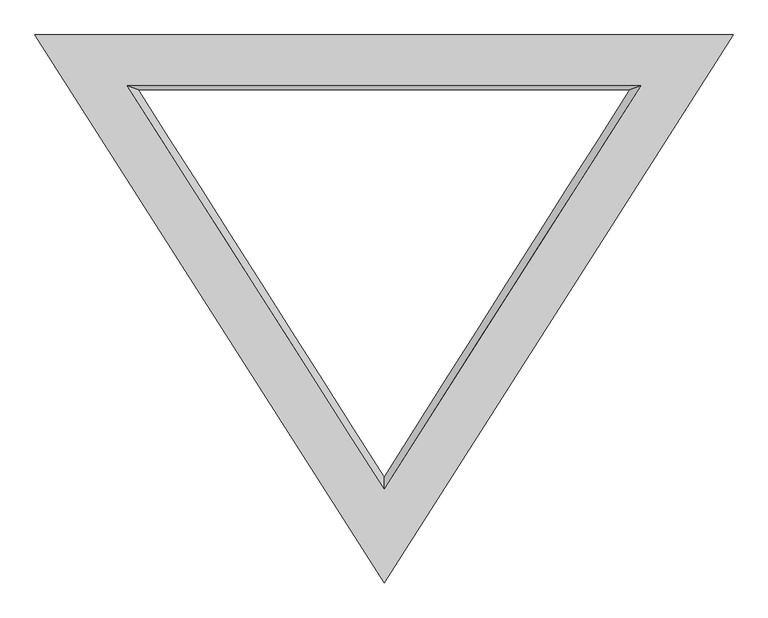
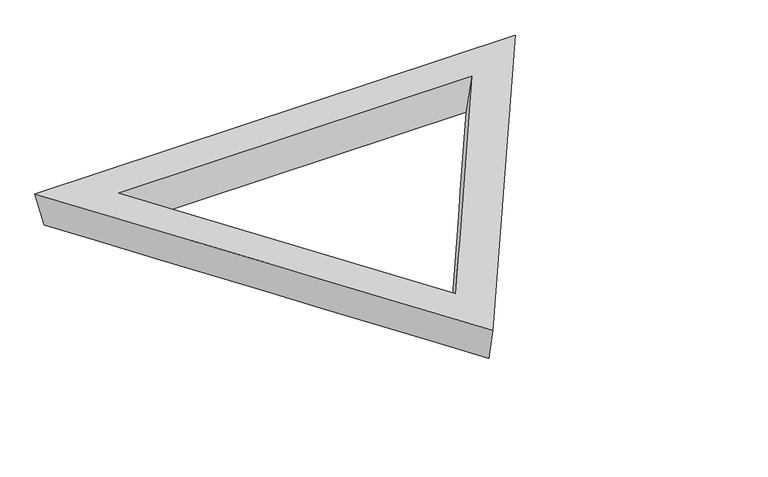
"""IFC4 building model written with IfcOpenShell, lengths in millimetres: plate geometry."""

from ifc_helpers import new_model, si_unit, frame, origin, place, context, project, spatial, source, transform, mapped, element, save
from ifc_brep_helpers import plane_surface, spline_surface, advanced_brep


def plate_71783cb5(model_context):
    return source(origin(), model_context, "Body", "AdvancedBrep", [
        advanced_brep(
        [(5109.0489049, 5589.8351689, 0.0), (5065.5304348, 5605.7829628, 197.7089017), (6096.0, 3988.3285992, 198.2917035), (6096.0, 4033.3777205, 0.0), (7126.4695652, 5605.7829628, 197.7089017), (7082.9510951, 5589.8351689, 0.0), (6096.0, 3653.9296621, 0.0), (7452.4087631, 5793.0351689, 0.0), (7496.8614846, 5808.9829496, 197.6356846), (6096.0, 3610.1508856, 198.4279686), (4739.5912369, 5793.0351689, 0.0), (4695.1385154, 5808.9829496, 197.6356846)],
        [
            (0, 1),
            (1, 2),
            (2, 3),
            (3, 0),
            (2, 4),
            (4, 5),
            (5, 3),
            (0, 5),
            (4, 1),
            (6, 7),
            (7, 8),
            (8, 9),
            (9, 6),
            (7, 10),
            (10, 11),
            (11, 8),
            (9, 11),
            (10, 6),
        ],
        [
            spline_surface(1, 1, [[(5109.0489049, 5589.8351689, 0.0), (6096.0, 4033.3777205, 0.0)], [(5065.5304348, 5605.7829628, 197.7089017), (6096.0, 3988.3285992, 198.2917035)]], [2, 2], [2, 2], [0.0, 1.0], [0.0, 1.0]),
            spline_surface(1, 1, [[(6096.0, 4033.3777205, 0.0), (7082.9510951, 5589.8351689, 0.0)], [(6096.0, 3988.3285992, 198.2917035), (7126.4695652, 5605.7829628, 197.7089017)]], [2, 2], [2, 2], [0.0, 1.0], [0.0, 1.0]),
            plane_surface(frame((6096.0, 5589.8351689, 0.0), z_axis=(0.0, -0.9967625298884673, 0.08040185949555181), x_axis=(-1.0, 0.0, 0.0))),
            spline_surface(1, 1, [[(6096.0, 3653.9296621, 0.0), (6096.0, 3610.1508856, 198.4279686)], [(7452.4087631, 5793.0351689, 0.0), (7496.8614846, 5808.9829496, 197.6356846)]], [2, 2], [2, 2], [0.0, 1.0], [0.0, 1.0]),
            plane_surface(frame((6096.0, 5793.0351689, 0.0), z_axis=(0.0, 0.9967601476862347, -0.08043138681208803), x_axis=(-1.0, 0.0, 0.0))),
            spline_surface(1, 1, [[(4739.5912369, 5793.0351689, 0.0), (4695.1385154, 5808.9829496, 197.6356846)], [(6096.0, 3653.9296621, 0.0), (6096.0, 3610.1508856, 198.4279686)]], [2, 2], [2, 2], [0.0, 1.0], [0.0, 1.0]),
            plane_surface(frame((6096.0, 5076.0389282, 197.8997793), z_axis=(0.0, 0.00036032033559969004, 0.9999999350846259), x_axis=(0.5373134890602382, -0.8433825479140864, 0.00030388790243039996))),
            plane_surface(frame((6096.0, 5080.0, 0.0), z_axis=(0.0, 0.0, -1.0), x_axis=(-0.5355146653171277, 0.844525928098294, 0.0))),
        ],
        [
            (0, [[1, 2, 3, 4]]),
            (1, [[-3, 5, 6, 7]]),
            (2, [[-1, 8, -6, 9]]),
            (3, [[10, 11, 12, 13]]),
            (4, [[-11, 14, 15, 16]]),
            (5, [[-13, 17, -15, 18]]),
            (6, [[-12, -16, -17], [-2, -9, -5]]),
            (7, [[-10, -18, -14], [-4, -7, -8]]),
        ],
    ),
    ])


if __name__ == "__main__":
    model = new_model("IFC4")
    model_context = context("Model", 3, world=origin())
    ifc_project = project(units=[si_unit("LENGTHUNIT", "METRE", prefix="MILLI")], contexts=[model_context])
    site = spatial("IfcSite", under=ifc_project)
    building = spatial("IfcBuilding", under=site)
    placement = place(None, origin())
    plate_shape = plate_71783cb5(model_context)
    element("IfcPlate", 1, ObjectType="tn_cpanel_patbase_triangle_flat_seamless_frame_02_cylinder : tn_cpanel_pattern_mullion_t8\"xh8\"", at=placement, inside=building, context=model_context, shape_type="MappedRepresentation", body=[
        mapped(plate_shape, transform((0.0, 0.0, 0.0), x_axis=(1.0, 0.0, 0.0), y_axis=(0.0, 1.0, 0.0), z_axis=(0.0, 0.0, 1.0))),
    ])
    save(model, "model.ifc")
